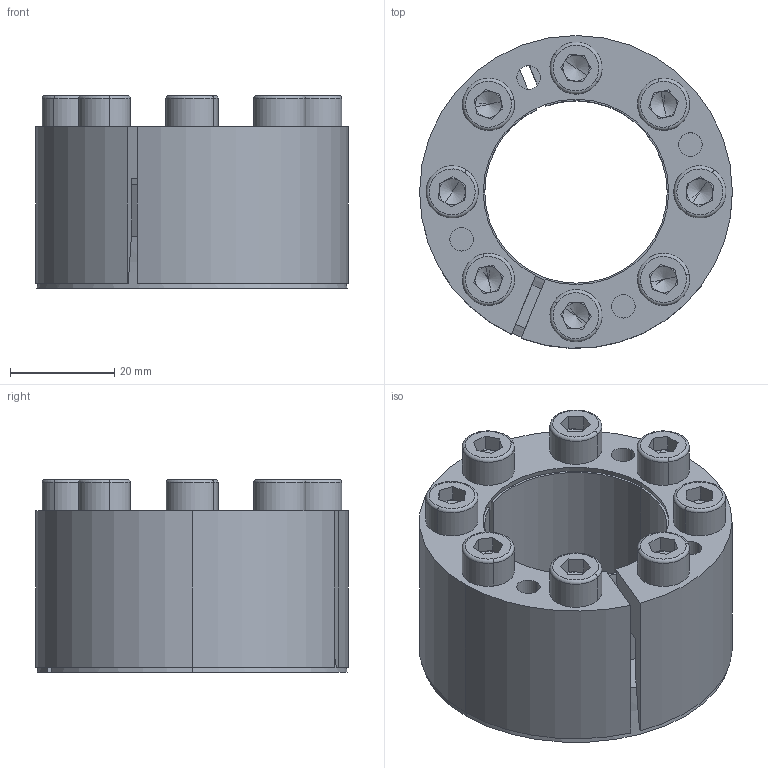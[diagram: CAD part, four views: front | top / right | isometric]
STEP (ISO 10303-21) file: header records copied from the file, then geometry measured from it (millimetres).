
FILE_DESCRIPTION (( 'STEP AP214' ), '1' );
FILE_NAME ('CONEX-K-35x60.step', '2013-04-06T13:21:07', ( 'Pc' ), ( '' ), 'SwSTEP 2.0', 'SolidWorks 2013', '' );
FILE_SCHEMA (( 'AUTOMOTIVE_DESIGN' ));
Length unit declared in the file: millimetre
Products named in the file (1): CONEX-K-35x60
Bounding box: 60 x 59.98 x 37.01 mm (x, y, z)
Volume: 48866 mm3; surface area: 34607.5 mm2
Topology: 10 solids, 10 shells, 290 faces, 670 edges, 400 vertices
Faces by surface type: plane 130, cylinder 84, cone 44, torus 32
Entity records: 11481 total; most frequent: DIRECTION 1542, CARTESIAN_POINT 1369, ORIENTED_EDGE 1308, EDGE_CURVE 654, AXIS2_PLACEMENT_3D 605, VERTEX_POINT 400, EDGE_LOOP 346, LINE 332
